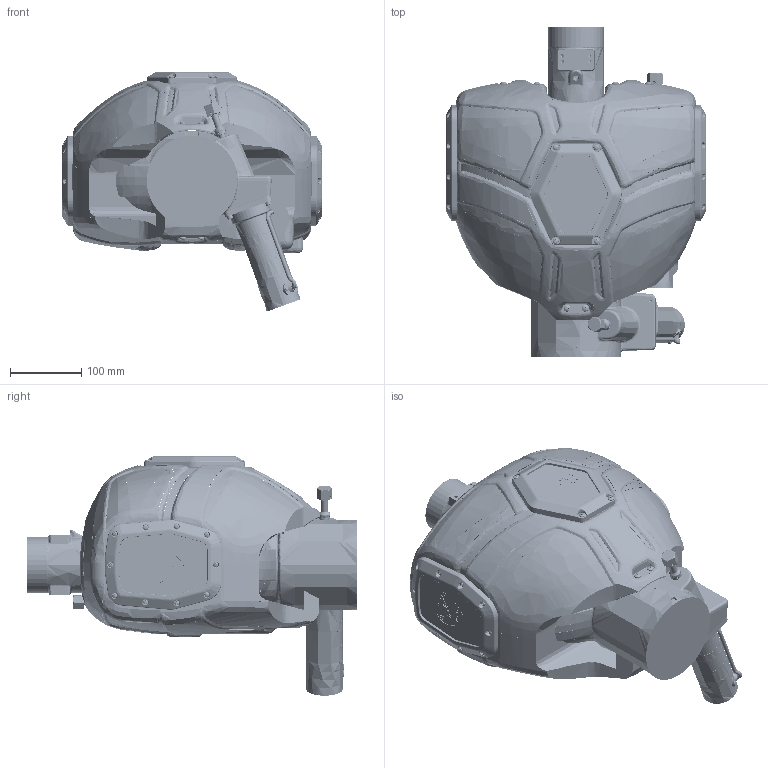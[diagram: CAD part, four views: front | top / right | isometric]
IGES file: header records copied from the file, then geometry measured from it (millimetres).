
Start section: SolidWorks IGES file using analytic representation for surfaces
Global section: file name: C:\Users\kprahl\Desktop\CobraMax Models for Website\CobraMax IGES Files\CobraMax 7200HDX2.IGS; native system: SolidWorks 2019; preprocessor: SolidWorks 2019; author: kprahl; date: 210412.165603; units: inch
Bounding box: 364.78 x 462.24 x 335.8 mm (x, y, z)
Surface area: 1356727.5 mm2 (no closed solid volume)
Topology: 0 solids, 0 shells, 8895 faces, 131759 edges, 131586 vertices
Faces by surface type: revolution 4535, bspline 4360
